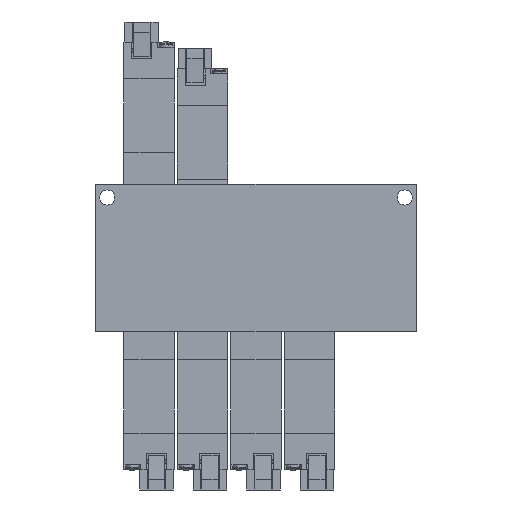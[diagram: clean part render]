
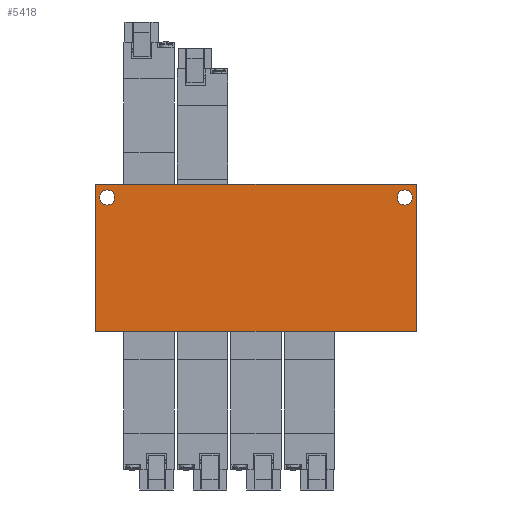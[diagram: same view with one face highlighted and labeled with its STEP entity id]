
A CAD part, front view. The second image highlights one B-rep face of the part: STEP entity #5418.
In plain terms, the highlighted planar face has unit normal (0, -1, 0).
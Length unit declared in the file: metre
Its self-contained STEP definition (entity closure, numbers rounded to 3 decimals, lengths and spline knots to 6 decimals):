
#400 = PLANE ( 'NONE',  #14018 ) ;
#457 = CARTESIAN_POINT ( 'NONE',  ( -0.048, -0.01525, -0.0185 ) ) ;
#651 = DIRECTION ( 'NONE',  ( 0., -1., 0. ) ) ;
#673 = EDGE_CURVE ( 'NONE', #8191, #2989, #17090, .T. ) ;
#707 = DIRECTION ( 'NONE',  ( 0., 0., -1. ) ) ;
#813 = CARTESIAN_POINT ( 'NONE',  ( 0.0445, -0.01525, 0.01925 ) ) ;
#959 = CARTESIAN_POINT ( 'NONE',  ( -0.0445, -0.01525, 0.02375 ) ) ;
#1139 = EDGE_CURVE ( 'NONE', #5074, #11255, #1208, .T. ) ;
#1208 = LINE ( 'NONE', #4566, #8021 ) ;
#1226 = CARTESIAN_POINT ( 'NONE',  ( -0.048, -0.01525, 0.0255 ) ) ;
#1387 = DIRECTION ( 'NONE',  ( 0., 1., 0. ) ) ;
#1411 = CARTESIAN_POINT ( 'NONE',  ( -0.0445, -0.01525, 0.0215 ) ) ;
#1415 = VERTEX_POINT ( 'NONE', #457 ) ;
#1621 = DIRECTION ( 'NONE',  ( 0., 0., 1. ) ) ;
#1822 = CARTESIAN_POINT ( 'NONE',  ( 0.0445, -0.01525, 0.02375 ) ) ;
#1861 = LINE ( 'NONE', #15556, #8680 ) ;
#1952 = AXIS2_PLACEMENT_3D ( 'NONE', #7261, #17122, #8650 ) ;
#2192 = VECTOR ( 'NONE', #10435, 1. ) ;
#2467 = ORIENTED_EDGE ( 'NONE', *, *, #673, .T. ) ;
#2989 = VERTEX_POINT ( 'NONE', #813 ) ;
#3467 = CARTESIAN_POINT ( 'NONE',  ( -0.0445, -0.01525, 0.01925 ) ) ;
#3654 = CARTESIAN_POINT ( 'NONE',  ( 0., -0.01525, 0.0255 ) ) ;
#4125 = EDGE_CURVE ( 'NONE', #16494, #11945, #9802, .T. ) ;
#4566 = CARTESIAN_POINT ( 'NONE',  ( 0.048, -0.01525, 0.0035 ) ) ;
#5074 = VERTEX_POINT ( 'NONE', #11550 ) ;
#5317 = DIRECTION ( 'NONE',  ( 0., 0., -1. ) ) ;
#5418 = ADVANCED_FACE ( 'NONE', ( #7966, #7539, #11741 ), #400, .T. ) ;
#5575 = ORIENTED_EDGE ( 'NONE', *, *, #6788, .T. ) ;
#5737 = DIRECTION ( 'NONE',  ( -1., 0., 0. ) ) ;
#5989 = CIRCLE ( 'NONE', #12665, 0.00225 ) ;
#6127 = VECTOR ( 'NONE', #14816, 1. ) ;
#6352 = DIRECTION ( 'NONE',  ( 0., 1., 0. ) ) ;
#6702 = DIRECTION ( 'NONE',  ( 0., 1., 0. ) ) ;
#6788 = EDGE_CURVE ( 'NONE', #13357, #1415, #16122, .T. ) ;
#6900 = CARTESIAN_POINT ( 'NONE',  ( 0.0445, -0.01525, 0.0215 ) ) ;
#6904 = AXIS2_PLACEMENT_3D ( 'NONE', #6900, #6702, #7134 ) ;
#6982 = ORIENTED_EDGE ( 'NONE', *, *, #4125, .T. ) ;
#7134 = DIRECTION ( 'NONE',  ( 0., 0., 1. ) ) ;
#7209 = CIRCLE ( 'NONE', #1952, 0.00225 ) ;
#7261 = CARTESIAN_POINT ( 'NONE',  ( -0.0445, -0.01525, 0.0215 ) ) ;
#7407 = ORIENTED_EDGE ( 'NONE', *, *, #1139, .F. ) ;
#7539 = FACE_BOUND ( 'NONE', #9444, .T. ) ;
#7966 = FACE_BOUND ( 'NONE', #15675, .T. ) ;
#8021 = VECTOR ( 'NONE', #5317, 1. ) ;
#8191 = VERTEX_POINT ( 'NONE', #1822 ) ;
#8650 = DIRECTION ( 'NONE',  ( 0., 0., 1. ) ) ;
#8680 = VECTOR ( 'NONE', #5737, 1. ) ;
#9444 = EDGE_LOOP ( 'NONE', ( #2467, #17154 ) ) ;
#9802 = CIRCLE ( 'NONE', #12932, 0.00225 ) ;
#10210 = ORIENTED_EDGE ( 'NONE', *, *, #12519, .T. ) ;
#10347 = EDGE_LOOP ( 'NONE', ( #5575, #15557, #7407, #16188 ) ) ;
#10435 = DIRECTION ( 'NONE',  ( 0., 0., -1. ) ) ;
#10541 = CARTESIAN_POINT ( 'NONE',  ( 0.048, -0.01525, -0.0185 ) ) ;
#10689 = CARTESIAN_POINT ( 'NONE',  ( -0.048, -0.01525, 0.0035 ) ) ;
#11255 = VERTEX_POINT ( 'NONE', #10541 ) ;
#11550 = CARTESIAN_POINT ( 'NONE',  ( 0.048, -0.01525, 0.0255 ) ) ;
#11741 = FACE_OUTER_BOUND ( 'NONE', #10347, .T. ) ;
#11945 = VERTEX_POINT ( 'NONE', #3467 ) ;
#12519 = EDGE_CURVE ( 'NONE', #11945, #16494, #7209, .T. ) ;
#12665 = AXIS2_PLACEMENT_3D ( 'NONE', #14762, #6352, #16168 ) ;
#12932 = AXIS2_PLACEMENT_3D ( 'NONE', #1411, #1387, #1621 ) ;
#13357 = VERTEX_POINT ( 'NONE', #14471 ) ;
#13585 = LINE ( 'NONE', #3654, #6127 ) ;
#14018 = AXIS2_PLACEMENT_3D ( 'NONE', #1226, #651, #707 ) ;
#14242 = EDGE_CURVE ( 'NONE', #5074, #13357, #13585, .T. ) ;
#14471 = CARTESIAN_POINT ( 'NONE',  ( -0.048, -0.01525, 0.0255 ) ) ;
#14613 = EDGE_CURVE ( 'NONE', #11255, #1415, #1861, .T. ) ;
#14762 = CARTESIAN_POINT ( 'NONE',  ( 0.0445, -0.01525, 0.0215 ) ) ;
#14816 = DIRECTION ( 'NONE',  ( -1., 0., 0. ) ) ;
#15556 = CARTESIAN_POINT ( 'NONE',  ( 0., -0.01525, -0.0185 ) ) ;
#15557 = ORIENTED_EDGE ( 'NONE', *, *, #14613, .F. ) ;
#15675 = EDGE_LOOP ( 'NONE', ( #6982, #10210 ) ) ;
#16122 = LINE ( 'NONE', #10689, #2192 ) ;
#16168 = DIRECTION ( 'NONE',  ( 0., 0., 1. ) ) ;
#16188 = ORIENTED_EDGE ( 'NONE', *, *, #14242, .T. ) ;
#16221 = EDGE_CURVE ( 'NONE', #2989, #8191, #5989, .T. ) ;
#16494 = VERTEX_POINT ( 'NONE', #959 ) ;
#17090 = CIRCLE ( 'NONE', #6904, 0.00225 ) ;
#17122 = DIRECTION ( 'NONE',  ( 0., 1., 0. ) ) ;
#17154 = ORIENTED_EDGE ( 'NONE', *, *, #16221, .T. ) ;
